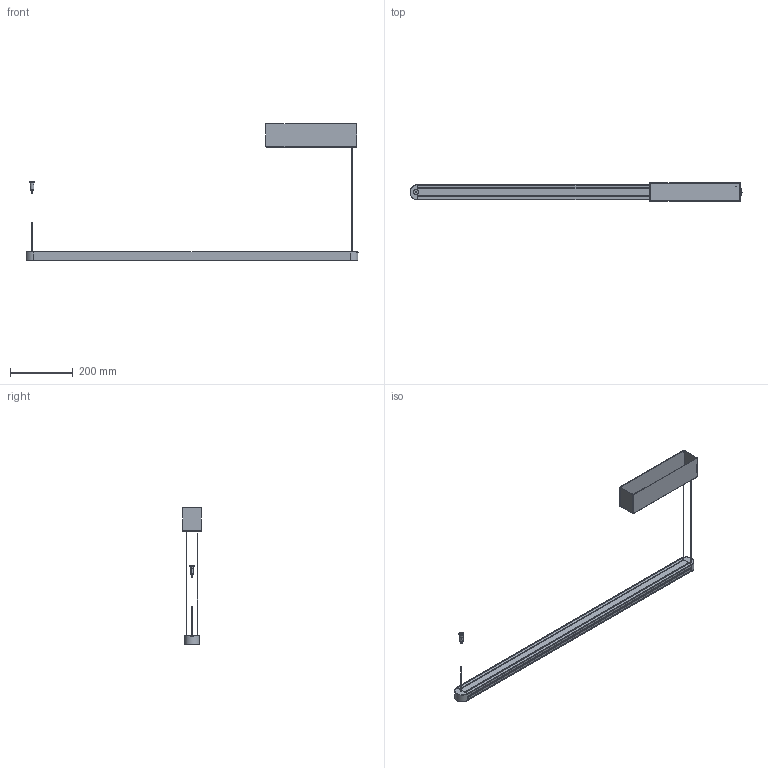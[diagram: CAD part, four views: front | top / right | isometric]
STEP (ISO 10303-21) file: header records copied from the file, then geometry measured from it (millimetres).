
FILE_DESCRIPTION(/* description */ (''),/* implementation_level */ '2;1');
FILE_NAME(/* name */ '1906-22',/* time_stamp */ '2021-06-09T15:21:35+02:00',/* author */ (''),/* organization */ (''),/* preprocessor_version */ 'ST-DEVELOPER v16.5',/* originating_system */ '',/* authorisation */ '');
FILE_SCHEMA (('CONFIG_CONTROL_DESIGN'));
Length unit declared in the file: millimetre
Products named in the file (10): Document; PLA.005070; PRE.005672; CEL.005307_1; PRE.005671; CEL.005307; MET.005568; MET.005548; MIN.005186; MIN.005185
Assembly tree (13 placements, depth 3):
  Document
    PLA.005070  x4
    PRE.005672
      CEL.005307_1
    PRE.005671
      CEL.005307
    MET.005568
    MET.005548  x2
    MIN.005186
    MIN.005185
Bounding box: 1058.44 x 60 x 436.33 mm (x, y, z)
Volume: 466505.9 mm3; surface area: 704011 mm2
Topology: 16 solids, 18 shells, 526 faces, 1495 edges, 997 vertices
Faces by surface type: plane 266, cylinder 227, bspline 33
Entity records: 12305 total; most frequent: CARTESIAN_POINT 5553, ORIENTED_EDGE 1770, EDGE_CURVE 901, VERTEX_POINT 601, B_SPLINE_CURVE_WITH_KNOTS 573, DIRECTION 356, EDGE_LOOP 336, ADVANCED_FACE 325
